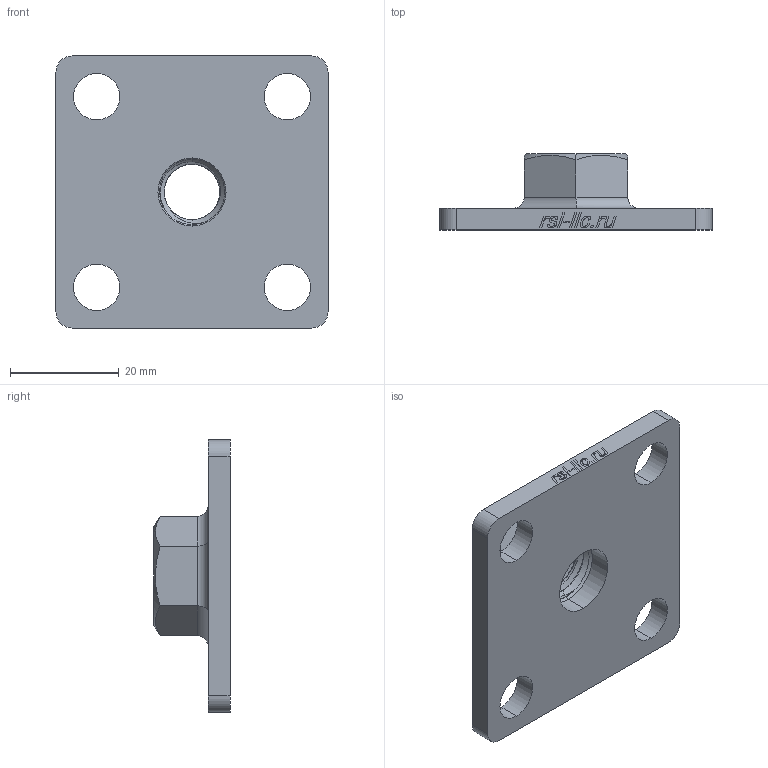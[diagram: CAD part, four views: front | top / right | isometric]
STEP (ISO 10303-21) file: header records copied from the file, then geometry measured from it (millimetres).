
FILE_DESCRIPTION (( 'STEP AP214' ), '1' );
FILE_NAME ('7032-Ñòàëü-Ì12.STEP', '2022-10-17T12:01:55', ( '' ), ( '' ), 'SwSTEP 2.0', 'SolidWorks 2020', '' );
FILE_SCHEMA (( 'AUTOMOTIVE_DESIGN' ));
Length unit declared in the file: millimetre
Products named in the file (1): 7032-Ñòàëü-Ì12
Bounding box: 50 x 14 x 50.02 mm (x, y, z)
Volume: 10881.1 mm3; surface area: 7815.4 mm2
Topology: 23 solids, 23 shells, 271 faces, 653 edges, 430 vertices
Faces by surface type: plane 160, bspline 73, cylinder 32, cone 6
Entity records: 16207 total; most frequent: CARTESIAN_POINT 9038, ORIENTED_EDGE 1306, DIRECTION 905, EDGE_CURVE 653, VECTOR 431, LINE 431, VERTEX_POINT 430, EDGE_LOOP 283
